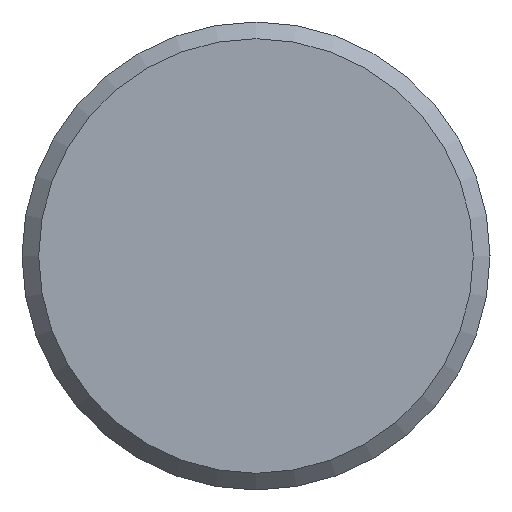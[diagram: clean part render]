
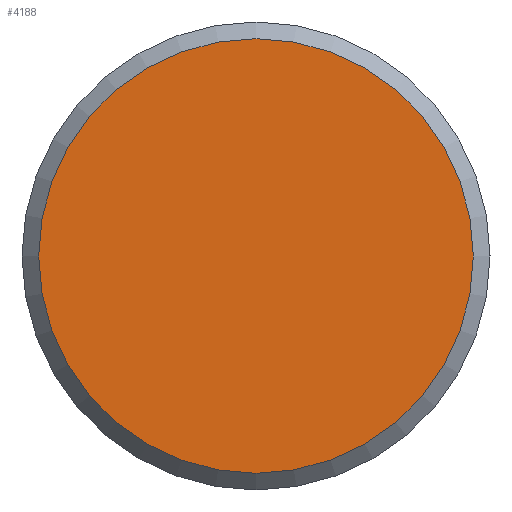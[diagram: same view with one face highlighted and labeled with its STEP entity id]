
A CAD part, left-side view. The second image highlights one B-rep face of the part: STEP entity #4188.
In plain terms, the highlighted planar face has unit normal (-1, 0, 0).
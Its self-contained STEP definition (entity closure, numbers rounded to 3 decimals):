
#1506=PLANE('',#3855);
#1564=ORIENTED_EDGE('',*,*,#2128,.F.);
#1844=CIRCLE('',#3854,6.5);
#1986=VERTEX_POINT('',#3425);
#2128=EDGE_CURVE('',#1986,#1986,#1844,.T.);
#2274=EDGE_LOOP('',(#1564));
#2558=FACE_BOUND('',#2274,.T.);
#2849=DIRECTION('',(1.,0.,0.));
#2850=DIRECTION('',(0.,-6.5,0.));
#2851=DIRECTION('',(-1.,0.,0.));
#2852=DIRECTION('',(0.,1.,0.));
#3425=CARTESIAN_POINT('',(12.001,50.998,0.));
#3426=CARTESIAN_POINT('',(12.001,57.498,0.));
#3427=CARTESIAN_POINT('',(12.001,57.498,0.));
#3854=AXIS2_PLACEMENT_3D('',#3426,#2849,#2850);
#3855=AXIS2_PLACEMENT_3D('',#3427,#2851,#2852);
#4188=ADVANCED_FACE('',(#2558),#1506,.T.);
